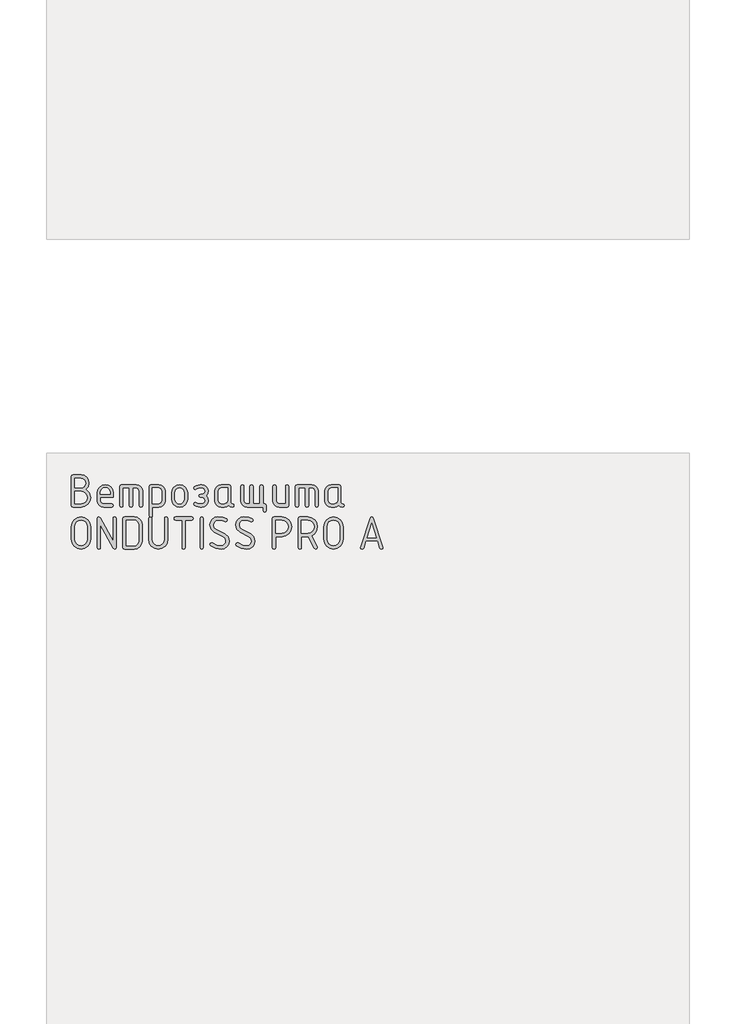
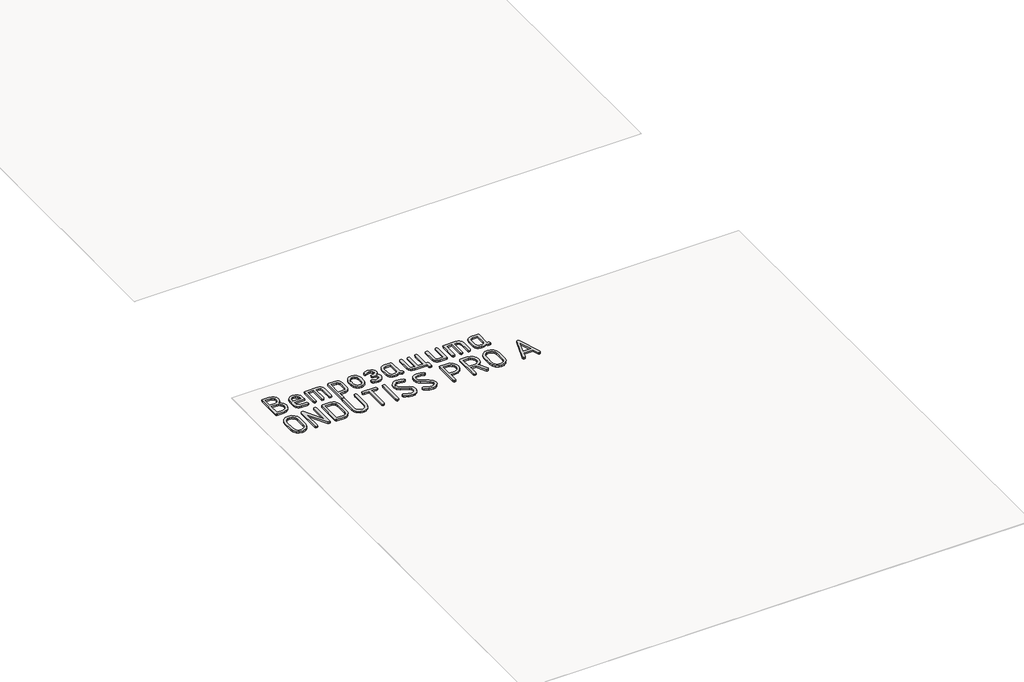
# One storey, part 8 of 42: 1 proxy.
"""IFC4 building model written with IfcOpenShell, lengths in millimetres."""

from ifc_helpers import new_model, si_unit, origin, origin_with_axes, place, context, project, spatial, polyline, outline, extrude, element, save

model = new_model("IFC4")

# Units and contexts
model_context = context("Model", 3, world=origin())
ifc_project = project(units=[si_unit("LENGTHUNIT", "METRE", prefix="MILLI")], contexts=[model_context])

# Site, building, storey
site = spatial("IfcSite", under=ifc_project)
building = spatial("IfcBuilding", under=site)
storey = spatial("IfcBuildingStorey", under=building, Name="Этаж 01", Elevation=0.0)

# Proxy
placement = place(None, origin())
element("IfcBuildingElementProxy", 1, Name="150 мм GOST Common", ObjectType="150 мм GOST Common", at=placement, inside=storey, context=model_context, shape_type="SweptSolid", body=[
    extrude(outline(polyline([(-23252.8873918, -38744.1512234), (-23236.4972471, -38759.9620699), (-23231.0338655, -38782.145197), (-23234.3098969, -38799.2594645), (-23244.137991, -38813.6869868), (-23258.6004709, -38823.5000991), (-23275.7796598, -38826.7711365), (-23313.0545046, -38826.7711365), (-23318.6577168, -38824.8834233), (-23320.5254542, -38819.2202837), (-23320.5254542, -38683.4647398), (-23318.6677047, -38677.8016002), (-23313.0944562, -38675.913887), (-23275.8995146, -38675.913887), (-23261.4620044, -38678.6905234), (-23249.4715299, -38687.0204324), (-23241.3963123, -38699.3854533), (-23238.7045731, -38714.267425), (-23242.2502778, -38730.9272431), (-23252.8873918, -38744.1512234)]), holes=[polyline([(-23305.184039, -38691.2553022), (-23305.184039, -38737.2795478), (-23275.9794178, -38737.2795478), (-23267.5446358, -38735.5965866), (-23260.4582204, -38730.5477029), (-23255.6490463, -38723.1117109), (-23254.0459883, -38714.267425), (-23255.6490463, -38705.4231391), (-23260.4582204, -38697.9871472), (-23267.5446358, -38692.9382635), (-23275.9794178, -38691.2553022), (-23305.184039, -38691.2553022)]), polyline([(-23305.184039, -38752.620963), (-23305.184039, -38811.4297213), (-23275.7796598, -38811.4297213), (-23264.3884593, -38809.2973045), (-23254.9049477, -38802.9000542), (-23248.5076975, -38793.4165427), (-23246.3752807, -38782.0253421), (-23248.5076975, -38770.6341416), (-23254.9049477, -38761.1506301), (-23264.3884593, -38754.7533798), (-23275.7796598, -38752.620963), (-23305.184039, -38752.620963)])]), origin_with_axes(), (0.0, 0.0, 1.0), 10.0),
    extrude(outline(polyline([(-23185.0096199, -38780.7468909), (-23185.0096199, -38796.0883061), (-23180.5749921, -38806.8952144), (-23170.0277691, -38811.4297213), (-23132.5132148, -38811.4297213), (-23126.8800389, -38813.3473982), (-23125.0023136, -38819.1004289), (-23126.8800389, -38824.8534596), (-23132.5132148, -38826.7711365), (-23170.0277691, -38826.7711365), (-23181.683649, -38824.6037621), (-23191.4817794, -38818.1016388), (-23198.1337212, -38808.443339), (-23200.3510351, -38796.8074349), (-23200.3510351, -38759.3727838), (-23197.5694048, -38744.9802191), (-23189.2245139, -38732.8848716), (-23176.9843418, -38724.6748174), (-23162.5168679, -38721.9381326), (-23147.9395271, -38724.5949142), (-23135.8491736, -38732.5652588), (-23127.7140286, -38744.4109088), (-23125.0023136, -38758.6936065), (-23125.0023136, -38780.7468909), (-23185.0096199, -38780.7468909)]), holes=[polyline([(-23162.5168679, -38735.4018225), (-23171.146414, -38737.0498261), (-23178.4176056, -38741.9938369), (-23183.3616163, -38749.2650284), (-23185.0096199, -38757.8945745), (-23185.0096199, -38765.4054757), (-23140.024116, -38765.4054757), (-23140.024116, -38757.8945745), (-23141.6721196, -38749.2650284), (-23146.6161303, -38741.9938369), (-23153.8873219, -38737.0498261), (-23162.5168679, -38735.4018225)])]), origin_with_axes(), (0.0, 0.0, 1.0), 10.0),
    extrude(outline(polyline([(-23087.8473237, -38721.9381326), (-23018.8109553, -38721.9381326), (-23006.9852811, -38724.1204889), (-22997.0772837, -38730.6675577), (-22990.3654146, -38740.3408393), (-22988.1281249, -38751.9018342), (-22988.1281249, -38819.3001869), (-22990.0458018, -38824.9033991), (-22995.7988325, -38826.7711365), (-23001.5518632, -38824.9033991), (-23003.4695401, -38819.3001869), (-23003.4695401, -38752.1814954), (-23007.8841921, -38741.574345), (-23018.8109553, -38737.2795478), (-23034.1523705, -38737.2795478), (-23034.1523705, -38819.3001869), (-23036.0700474, -38824.9033991), (-23041.8230781, -38826.7711365), (-23047.5761088, -38824.9033991), (-23049.4937857, -38819.3001869), (-23049.4937857, -38737.2795478), (-23080.1766161, -38737.2795478), (-23080.1766161, -38819.3001869), (-23082.094293, -38824.9033991), (-23087.8473237, -38826.7711365), (-23093.6003544, -38824.9033991), (-23095.5180313, -38819.3001869), (-23095.5180313, -38729.4090822), (-23093.6003544, -38723.80587), (-23087.8473237, -38721.9381326)])), origin_with_axes(), (0.0, 0.0, 1.0), 10.0),
    extrude(outline(polyline([(-22957.4452945, -38729.4889854), (-22955.587545, -38723.8258458), (-22950.0142965, -38721.9381326), (-22912.9392098, -38721.9381326), (-22901.4431363, -38724.105507), (-22891.8847155, -38730.6076303), (-22885.4425196, -38740.2659301), (-22883.295121, -38751.9018342), (-22883.295121, -38796.8074349), (-22885.4275378, -38808.3684298), (-22891.8247881, -38818.0417114), (-22901.3082996, -38824.5887802), (-22912.6995002, -38826.7711365), (-22942.1038793, -38826.7711365), (-22942.1038793, -38865.1246745), (-22944.0215562, -38870.8777052), (-22949.7745869, -38872.7953821), (-22955.5276176, -38870.9076689), (-22957.4452945, -38865.2445293), (-22957.4452945, -38729.4889854)]), holes=[polyline([(-22942.1038793, -38737.2795478), (-22942.1038793, -38811.4297213), (-22913.1389678, -38811.4297213), (-22902.871406, -38807.0949725), (-22898.6365362, -38796.6076769), (-22898.6365362, -38752.1015922), (-22902.8114786, -38741.5543692), (-22913.1389678, -38737.2795478), (-22942.1038793, -38737.2795478)])]), origin_with_axes(), (0.0, 0.0, 1.0), 10.0),
    extrude(outline(polyline([(-22852.6122906, -38789.3364853), (-22852.6122906, -38759.3727838), (-22849.9005756, -38744.9802191), (-22841.7654307, -38732.8848716), (-22829.784944, -38724.6748174), (-22815.5372039, -38721.9381326), (-22801.1396453, -38724.6448537), (-22789.1891223, -38732.7650168), (-22781.1438685, -38744.8304006), (-22778.4621172, -38759.3727838), (-22778.4621172, -38789.3364853), (-22781.1738322, -38803.72905), (-22789.3089771, -38815.8243975), (-22801.2894638, -38824.0344517), (-22815.5372039, -38826.7711365), (-22829.784944, -38824.0344517), (-22841.7654307, -38815.8243975), (-22849.9005756, -38803.72905), (-22852.6122906, -38789.3364853)]), holes=[polyline([(-22793.8035324, -38788.8970177), (-22793.8035324, -38758.8933645), (-22795.3966025, -38750.2638185), (-22800.1758129, -38742.9926269), (-22807.2023009, -38738.0486162), (-22815.5372039, -38736.4006126), (-22823.8721069, -38738.0486162), (-22830.8985949, -38742.9926269), (-22835.6778053, -38750.2638185), (-22837.2708754, -38758.8933645), (-22837.2708754, -38788.8970177), (-22835.6927871, -38797.606467), (-22830.9585223, -38804.8776585), (-22823.9470161, -38809.7917056), (-22815.5372039, -38811.4297213), (-22807.2023009, -38809.7817177), (-22800.1758129, -38804.8377069), (-22795.3966025, -38797.5565275), (-22793.8035324, -38788.8970177)])]), origin_with_axes(), (0.0, 0.0, 1.0), 10.0),
    extrude(outline(polyline([(-22696.6412361, -38796.0483545), (-22700.6363963, -38784.7020995), (-22709.505652, -38780.7468909), (-22719.1739397, -38780.7468909), (-22724.4875028, -38778.5495528), (-22726.6448893, -38773.1161349), (-22724.4275754, -38767.6627412), (-22717.0165532, -38765.4054757), (-22714.7393119, -38765.4054757), (-22712.3422157, -38765.4054757), (-22700.6763479, -38761.3503881), (-22696.6412361, -38751.3425118), (-22700.9759849, -38741.3346354), (-22711.6630385, -38737.2795478), (-22719.1739397, -38737.2795478), (-22734.5553065, -38741.0949258), (-22743.4645138, -38744.9103038), (-22747.459674, -38742.1736191), (-22749.1775929, -38736.9199834), (-22746.1013195, -38731.1769406), (-22736.8724994, -38726.013196), (-22719.1739397, -38721.9381326), (-22711.6630385, -38721.9381326), (-22699.9771949, -38724.0555675), (-22690.1690766, -38730.4078723), (-22683.5171348, -38739.8264625), (-22681.2998209, -38751.1427537), (-22683.9466146, -38764.4366493), (-22691.8869955, -38773.0761833), (-22683.9466146, -38782.2650518), (-22681.2998209, -38796.0883061), (-22683.5171348, -38807.9888895), (-22690.1690766, -38817.881905), (-22699.9771949, -38824.5488286), (-22711.6630385, -38826.7711365), (-22719.1739397, -38826.7711365), (-22736.9923542, -38822.8159279), (-22746.1312832, -38817.7420744), (-22749.1775929, -38811.7892857), (-22747.459674, -38806.5156742), (-22743.3446589, -38803.7989653), (-22734.2157179, -38807.6143433), (-22719.1739397, -38811.4297213), (-22711.6630385, -38811.4297213), (-22701.0159365, -38806.935166), (-22696.6412361, -38796.0483545)])), origin_with_axes(), (0.0, 0.0, 1.0), 10.0),
    extrude(outline(polyline([(-22561.4849663, -38819.3001869), (-22563.3527037, -38824.9033991), (-22568.9559159, -38826.7711365), (-22578.4344335, -38824.7835443), (-22586.01525, -38818.8207677), (-22595.1342031, -38824.7835443), (-22606.1109058, -38826.7711365), (-22620.9729018, -38826.7711365), (-22632.4689753, -38824.6037621), (-22642.0273961, -38818.1016388), (-22648.4695919, -38808.443339), (-22650.6169905, -38796.8074349), (-22650.6169905, -38751.9018342), (-22648.4695919, -38740.2659301), (-22642.0273961, -38730.6076303), (-22632.4689753, -38724.105507), (-22620.9729018, -38721.9381326), (-22583.8978151, -38721.9381326), (-22578.3245666, -38723.80587), (-22576.4668171, -38729.4090822), (-22576.4668171, -38804.3183361), (-22574.5940857, -38809.9215483), (-22568.9758917, -38811.7892857), (-22563.3576976, -38813.667011), (-22561.4849663, -38819.3001869)]), holes=[polyline([(-22591.8082323, -38737.2795478), (-22620.7731438, -38737.2795478), (-22631.0407055, -38741.6142966), (-22635.2755753, -38752.1015922), (-22635.2755753, -38796.6076769), (-22631.0007539, -38807.0550209), (-22620.7731438, -38811.4297213), (-22606.3106638, -38811.4297213), (-22596.0431021, -38807.0949725), (-22591.8082323, -38796.6076769), (-22591.8082323, -38737.2795478)])]), origin_with_axes(), (0.0, 0.0, 1.0), 10.0),
    extrude(outline(polyline([(-22425.6095676, -38826.7711365), (-22500.4788699, -38826.7711365), (-22512.114774, -38824.5887802), (-22521.7730738, -38818.0417114), (-22528.2751971, -38808.3684298), (-22530.4425715, -38796.8074349), (-22530.4425715, -38729.4090822), (-22528.5248946, -38723.80587), (-22522.7718639, -38721.9381326), (-22517.0188332, -38723.80587), (-22515.1011563, -38729.4090822), (-22515.1011563, -38796.5277737), (-22510.9461897, -38807.0150692), (-22501.0381924, -38811.4297213), (-22486.9752284, -38811.4297213), (-22486.9752284, -38729.4090822), (-22485.0575515, -38723.80587), (-22479.3045208, -38721.9381326), (-22473.5514901, -38723.80587), (-22471.6338132, -38729.4090822), (-22471.6338132, -38811.4297213), (-22440.9509828, -38811.4297213), (-22440.9509828, -38729.4090822), (-22439.0333059, -38723.80587), (-22433.2802752, -38721.9381326), (-22427.5272445, -38723.80587), (-22425.6095676, -38729.4090822), (-22425.6095676, -38811.4297213), (-22417.93886, -38811.4297213), (-22412.1858293, -38813.3473982), (-22410.2681524, -38819.1004289), (-22410.2681524, -38842.1125517), (-22412.1858293, -38847.8655824), (-22417.93886, -38849.7832593), (-22423.6918907, -38847.8655824), (-22425.6095676, -38842.1125517), (-22425.6095676, -38826.7711365)])), origin_with_axes(), (0.0, 0.0, 1.0), 10.0),
    extrude(outline(polyline([(-22305.4351486, -38729.4090822), (-22305.4351486, -38819.3001869), (-22307.2928981, -38824.9033991), (-22312.8661466, -38826.7711365), (-22349.9412333, -38826.7711365), (-22361.4373068, -38824.6037621), (-22370.9957276, -38818.1016388), (-22377.4379234, -38808.443339), (-22379.585322, -38796.8074349), (-22379.585322, -38729.4090822), (-22377.6676451, -38723.80587), (-22371.9146144, -38721.9381326), (-22366.1615837, -38723.80587), (-22364.2439068, -38729.4090822), (-22364.2439068, -38796.5277737), (-22359.9690854, -38807.0150692), (-22349.7414753, -38811.4297213), (-22320.7765638, -38811.4297213), (-22320.7765638, -38729.4090822), (-22318.8588869, -38723.80587), (-22313.1058562, -38721.9381326), (-22307.3528255, -38723.80587), (-22305.4351486, -38729.4090822)])), origin_with_axes(), (0.0, 0.0, 1.0), 10.0),
    extrude(outline(polyline([(-22267.0816106, -38721.9381326), (-22198.0452422, -38721.9381326), (-22186.219568, -38724.1204889), (-22176.3115707, -38730.6675577), (-22169.5997015, -38740.3408393), (-22167.3624118, -38751.9018342), (-22167.3624118, -38819.3001869), (-22169.2800887, -38824.9033991), (-22175.0331194, -38826.7711365), (-22180.7861501, -38824.9033991), (-22182.703827, -38819.3001869), (-22182.703827, -38752.1814954), (-22187.118479, -38741.574345), (-22198.0452422, -38737.2795478), (-22213.3866574, -38737.2795478), (-22213.3866574, -38819.3001869), (-22215.3043343, -38824.9033991), (-22221.057365, -38826.7711365), (-22226.8103957, -38824.9033991), (-22228.7280726, -38819.3001869), (-22228.7280726, -38737.2795478), (-22259.410903, -38737.2795478), (-22259.410903, -38819.3001869), (-22261.3285799, -38824.9033991), (-22267.0816106, -38826.7711365), (-22272.8346413, -38824.9033991), (-22274.7523182, -38819.3001869), (-22274.7523182, -38729.4090822), (-22272.8346413, -38723.80587), (-22267.0816106, -38721.9381326)])), origin_with_axes(), (0.0, 0.0, 1.0), 10.0),
    extrude(outline(polyline([(-22047.5475572, -38819.3001869), (-22049.4152946, -38824.9033991), (-22055.0185068, -38826.7711365), (-22064.4970244, -38824.7835443), (-22072.0778409, -38818.8207677), (-22081.196794, -38824.7835443), (-22092.1734967, -38826.7711365), (-22107.0354927, -38826.7711365), (-22118.5315662, -38824.6037621), (-22128.089987, -38818.1016388), (-22134.5321828, -38808.443339), (-22136.6795814, -38796.8074349), (-22136.6795814, -38751.9018342), (-22134.5321828, -38740.2659301), (-22128.089987, -38730.6076303), (-22118.5315662, -38724.105507), (-22107.0354927, -38721.9381326), (-22069.9604059, -38721.9381326), (-22064.3871575, -38723.80587), (-22062.529408, -38729.4090822), (-22062.529408, -38804.3183361), (-22060.6566766, -38809.9215483), (-22055.0384826, -38811.7892857), (-22049.4202885, -38813.667011), (-22047.5475572, -38819.3001869)]), holes=[polyline([(-22077.8708232, -38737.2795478), (-22106.8357347, -38737.2795478), (-22117.1032964, -38741.6142966), (-22121.3381662, -38752.1015922), (-22121.3381662, -38796.6076769), (-22117.0633448, -38807.0550209), (-22106.8357347, -38811.4297213), (-22092.3732547, -38811.4297213), (-22082.105693, -38807.0949725), (-22077.8708232, -38796.6076769), (-22077.8708232, -38737.2795478)])]), origin_with_axes(), (0.0, 0.0, 1.0), 10.0),
    extrude(outline(polyline([(-23231.0338655, -38977.5302169), (-23234.3098969, -38994.8991759), (-23244.137991, -39009.5314502), (-23258.6004709, -39019.4793991), (-23275.7796598, -39022.7953821), (-23292.9588487, -39019.4793991), (-23307.4213287, -39009.5314502), (-23317.2494228, -38994.8991759), (-23320.5254542, -38977.5302169), (-23320.5254542, -38917.2032978), (-23317.2494228, -38899.8343388), (-23307.4213287, -38885.2020645), (-23292.9588487, -38875.2541156), (-23275.7796598, -38871.9381326), (-23258.5255617, -38875.2391337), (-23244.0780636, -38885.1421371), (-23234.294915, -38899.7594295), (-23231.0338655, -38917.2032978), (-23231.0338655, -38977.5302169)]), holes=[polyline([(-23246.3752807, -38977.4103621), (-23246.3752807, -38917.3231526), (-23248.5076975, -38905.6772606), (-23254.9049477, -38895.9889971), (-23264.3884593, -38889.4569101), (-23275.7796598, -38887.2795478), (-23287.1708604, -38889.4569101), (-23296.6543719, -38895.9889971), (-23303.0516222, -38905.6772606), (-23305.184039, -38917.3231526), (-23305.184039, -38977.4103621), (-23303.0516222, -38989.0562541), (-23296.6543719, -38998.7445176), (-23287.1708604, -39005.2766046), (-23275.7796598, -39007.4539669), (-23264.3884593, -39005.2766046), (-23254.9049477, -38998.7445176), (-23248.5076975, -38989.0562541), (-23246.3752807, -38977.4103621)])]), origin_with_axes(), (0.0, 0.0, 1.0), 10.0),
    extrude(outline(polyline([(-23126.2008617, -38986.1198114), (-23126.2008617, -38879.4889854), (-23124.2831848, -38873.8258458), (-23118.5301541, -38871.9381326), (-23112.7771234, -38873.8258458), (-23110.8594465, -38879.4889854), (-23110.8594465, -39015.2445293), (-23112.8969782, -39020.9076689), (-23119.0095733, -39022.7953821), (-23126.2008617, -39019.0399315), (-23185.0096199, -38908.4938485), (-23185.0096199, -39015.2445293), (-23186.9272968, -39020.9076689), (-23192.6803275, -39022.7953821), (-23198.4333582, -39020.9076689), (-23200.3510351, -39015.2445293), (-23200.3510351, -38879.4889854), (-23198.353455, -38873.8258458), (-23192.3607147, -38871.9381326), (-23185.0096199, -38876.4127121), (-23126.2008617, -38986.1198114)])), origin_with_axes(), (0.0, 0.0, 1.0), 10.0),
    extrude(outline(polyline([(-23080.1766161, -38879.4889854), (-23078.3088787, -38873.8258458), (-23072.7056665, -38871.9381326), (-23027.9598721, -38871.9381326), (-23013.4874043, -38874.6648295), (-23001.47196, -38882.84492), (-22993.3817605, -38895.0001949), (-22990.6850274, -38909.652445), (-22990.6850274, -38985.0810697), (-22993.4117242, -38999.5835013), (-23001.5918148, -39011.7687399), (-23013.6372228, -39020.0387215), (-23027.9598721, -39022.7953821), (-23072.7056665, -39022.7953821), (-23078.3088787, -39020.9076689), (-23080.1766161, -39015.2445293), (-23080.1766161, -38879.4889854)]), holes=[polyline([(-23064.8352009, -38887.2795478), (-23064.8352009, -39007.4539669), (-23028.079727, -39007.4539669), (-23019.6049934, -39005.8059633), (-23012.4786263, -39000.8619525), (-23007.6394885, -38993.580773), (-23006.0264426, -38984.9212633), (-23006.0264426, -38909.8122514), (-23007.6394885, -38901.1527416), (-23012.4786263, -38893.8715622), (-23019.6049934, -38888.9275514), (-23028.079727, -38887.2795478), (-23064.8352009, -38887.2795478)])]), origin_with_axes(), (0.0, 0.0, 1.0), 10.0),
    extrude(outline(polyline([(-22870.5106084, -38879.4889854), (-22870.5106084, -38977.5302169), (-22873.7866397, -38994.8991759), (-22883.6147338, -39009.5314502), (-22898.0772138, -39019.4793991), (-22915.2564027, -39022.7953821), (-22932.4355916, -39019.4793991), (-22946.8980715, -39009.5314502), (-22956.7261656, -38994.8991759), (-22960.002197, -38977.5302169), (-22960.002197, -38879.4889854), (-22958.0845201, -38873.8258458), (-22952.3314894, -38871.9381326), (-22946.5784587, -38873.8158579), (-22944.6607818, -38879.4490338), (-22944.6607818, -38977.3304589), (-22942.5283651, -38989.0113086), (-22936.1311148, -38998.7245418), (-22926.6476032, -39005.2716106), (-22915.2564027, -39007.4539669), (-22903.8652021, -39005.2716106), (-22894.3816906, -38998.7245418), (-22887.9844403, -38989.0113086), (-22885.8520236, -38977.3304589), (-22885.8520236, -38879.4490338), (-22883.9343467, -38873.8158579), (-22878.181316, -38871.9381326), (-22872.4282853, -38873.8258458), (-22870.5106084, -38879.4889854)])), origin_with_axes(), (0.0, 0.0, 1.0), 10.0),
    extrude(outline(polyline([(-22841.5456969, -38879.6088402), (-22839.6679716, -38873.8558095), (-22834.0347957, -38871.9381326), (-22758.6860741, -38871.9381326), (-22753.082862, -38873.8558095), (-22751.2151246, -38879.6088402), (-22753.082862, -38885.3618709), (-22758.6860741, -38887.2795478), (-22788.6897273, -38887.2795478), (-22788.6897273, -39015.2844809), (-22790.6074042, -39020.9176568), (-22796.3604349, -39022.7953821), (-22802.1134656, -39020.9176568), (-22804.0311425, -39015.2844809), (-22804.0311425, -38887.2795478), (-22834.0347957, -38887.2795478), (-22839.6679716, -38885.3618709), (-22841.5456969, -38879.6088402)])), origin_with_axes(), (0.0, 0.0, 1.0), 10.0),
    extrude(outline(polyline([(-22711.9826513, -39022.7953821), (-22717.735682, -39020.9076689), (-22719.6533589, -39015.2445293), (-22719.6533589, -38879.4889854), (-22717.735682, -38873.8258458), (-22711.9826513, -38871.9381326), (-22706.2296206, -38873.8258458), (-22704.3119437, -38879.4889854), (-22704.3119437, -39015.2445293), (-22706.2296206, -39020.9076689), (-22711.9826513, -39022.7953821)])), origin_with_axes(), (0.0, 0.0, 1.0), 10.0),
    extrude(outline(polyline([(-22584.1375247, -38985.1609729), (-22586.8792034, -38999.5535376), (-22595.1042394, -39011.7287883), (-22607.1646293, -39020.0287336), (-22621.4123694, -39022.7953821), (-22647.4308503, -39018.6104518), (-22670.353082, -39006.0556608), (-22673.6291133, -38999.9430657), (-22671.4317752, -38994.6494784), (-22666.1981153, -38992.4321645), (-22661.9632455, -38993.790519), (-22641.5080253, -39004.2578387), (-22621.7319822, -39007.4539669), (-22613.1823394, -39005.8009693), (-22605.991051, -39000.8419767), (-22601.1069677, -38993.5458154), (-22599.4789399, -38984.8813117), (-22602.5652011, -38972.9158069), (-22611.8239849, -38964.665801), (-22653.5334575, -38943.0120327), (-22668.6051994, -38929.3985243), (-22673.6291133, -38909.5725418), (-22670.9024165, -38895.1799771), (-22662.722326, -38883.0047264), (-22650.7268574, -38874.7047811), (-22636.5540266, -38871.9381326), (-22613.3721095, -38874.0256038), (-22596.4026665, -38880.2880175), (-22591.9680387, -38887.2795478), (-22594.1853526, -38892.5731351), (-22599.4789399, -38894.790449), (-22602.5951648, -38893.991417), (-22619.4747167, -38888.9575151), (-22636.2344138, -38887.2795478), (-22644.7091474, -38888.9325454), (-22651.8355144, -38893.891538), (-22656.6746522, -38901.1876993), (-22658.2876981, -38909.852203), (-22655.2513764, -38921.7877441), (-22646.1424111, -38929.9478588), (-22604.4728901, -38951.6016272), (-22589.221366, -38965.3050267), (-22584.1375247, -38985.1609729)])), origin_with_axes(), (0.0, 0.0, 1.0), 10.0),
    extrude(outline(polyline([(-22463.9631056, -38985.1609729), (-22466.7047843, -38999.5535376), (-22474.9298204, -39011.7287883), (-22486.9902103, -39020.0287336), (-22501.2379504, -39022.7953821), (-22527.2564312, -39018.6104518), (-22550.1786629, -39006.0556608), (-22553.4546943, -38999.9430657), (-22551.2573562, -38994.6494784), (-22546.0236963, -38992.4321645), (-22541.7888265, -38993.790519), (-22521.3336062, -39004.2578387), (-22501.5575632, -39007.4539669), (-22493.0079203, -39005.8009693), (-22485.816632, -39000.8419767), (-22480.9325486, -38993.5458154), (-22479.3045208, -38984.8813117), (-22482.3907821, -38972.9158069), (-22491.6495659, -38964.665801), (-22533.3590384, -38943.0120327), (-22548.4307803, -38929.3985243), (-22553.4546943, -38909.5725418), (-22550.7279974, -38895.1799771), (-22542.5479069, -38883.0047264), (-22530.5524384, -38874.7047811), (-22516.3796075, -38871.9381326), (-22493.1976904, -38874.0256038), (-22476.2282475, -38880.2880175), (-22471.7936196, -38887.2795478), (-22474.0109335, -38892.5731351), (-22479.3045208, -38894.790449), (-22482.4207458, -38893.991417), (-22499.3002977, -38888.9575151), (-22516.0599947, -38887.2795478), (-22524.5347283, -38888.9325454), (-22531.6610953, -38893.891538), (-22536.5002331, -38901.1876993), (-22538.1132791, -38909.852203), (-22535.0769573, -38921.7877441), (-22525.967992, -38929.9478588), (-22484.2984711, -38951.6016272), (-22469.046947, -38965.3050267), (-22463.9631056, -38985.1609729)])), origin_with_axes(), (0.0, 0.0, 1.0), 10.0),
    extrude(outline(polyline([(-22374.671275, -38871.9381326), (-22337.3964302, -38871.9381326), (-22320.1423321, -38875.2940672), (-22305.694834, -38885.3618709), (-22295.9116854, -38900.2238669), (-22292.6506359, -38917.9623782), (-22295.7418911, -38936.4999216), (-22305.0156568, -38951.2021111), (-22319.2334332, -38960.7904956), (-22337.1567206, -38963.9866238), (-22366.8008094, -38963.9866238), (-22366.8008094, -39015.4442873), (-22368.7184863, -39020.9576084), (-22374.471517, -39022.7953821), (-22380.2245477, -39020.9076689), (-22382.1422246, -39015.2445293), (-22382.1422246, -38879.4889854), (-22380.2744872, -38873.8258458), (-22374.671275, -38871.9381326)]), holes=[polyline([(-22366.8008094, -38887.2795478), (-22366.8008094, -38948.6452086), (-22337.3964302, -38948.6452086), (-22326.0052297, -38946.4229007), (-22316.5217182, -38939.7559772), (-22310.1244679, -38929.8629617), (-22307.9920511, -38917.9623782), (-22310.1244679, -38906.0617947), (-22316.5217182, -38896.1687793), (-22326.0052297, -38889.5018557), (-22337.3964302, -38887.2795478), (-22366.8008094, -38887.2795478)])]), origin_with_axes(), (0.0, 0.0, 1.0), 10.0),
    extrude(outline(polyline([(-22198.6445162, -38959.2723348), (-22172.4762169, -39011.8086915), (-22172.4762169, -39015.2445293), (-22174.9132646, -39020.5181407), (-22180.5064889, -39022.7953821), (-22187.8176321, -39018.6803671), (-22214.9048183, -38963.866769), (-22217.541624, -38963.9866238), (-22246.6263903, -38963.9866238), (-22246.6263903, -39015.4442873), (-22248.5440672, -39020.9576084), (-22254.2970979, -39022.7953821), (-22260.0501286, -39020.9076689), (-22261.9678055, -39015.2445293), (-22261.9678055, -38879.4889854), (-22260.1000681, -38873.8258458), (-22254.4968559, -38871.9381326), (-22217.2220112, -38871.9381326), (-22199.9679131, -38875.2391337), (-22185.520415, -38885.1421371), (-22175.7372664, -38899.7594295), (-22172.4762169, -38917.2032978), (-22174.1117356, -38931.533438), (-22179.0182917, -38943.3216576), (-22187.1958853, -38952.5679565), (-22198.6445162, -38959.2723348)]), holes=[polyline([(-22246.6263903, -38887.2795478), (-22246.6263903, -38948.6452086), (-22217.2220112, -38948.6452086), (-22205.8308107, -38946.4229007), (-22196.3472991, -38939.7559772), (-22189.9500488, -38929.8629617), (-22187.8176321, -38917.9623782), (-22189.9500488, -38906.0617947), (-22196.3472991, -38896.1687793), (-22205.8308107, -38889.5018557), (-22217.2220112, -38887.2795478), (-22246.6263903, -38887.2795478)])]), origin_with_axes(), (0.0, 0.0, 1.0), 10.0),
    extrude(outline(polyline([(-22052.3017978, -38977.5302169), (-22055.5778292, -38994.8991759), (-22065.4059233, -39009.5314502), (-22079.8684033, -39019.4793991), (-22097.0475922, -39022.7953821), (-22114.226781, -39019.4793991), (-22128.689261, -39009.5314502), (-22138.5173551, -38994.8991759), (-22141.7933865, -38977.5302169), (-22141.7933865, -38917.2032978), (-22138.5173551, -38899.8343388), (-22128.689261, -38885.2020645), (-22114.226781, -38875.2541156), (-22097.0475922, -38871.9381326), (-22079.793494, -38875.2391337), (-22065.3459959, -38885.1421371), (-22055.5628473, -38899.7594295), (-22052.3017978, -38917.2032978), (-22052.3017978, -38977.5302169)]), holes=[polyline([(-22067.643213, -38977.4103621), (-22067.643213, -38917.3231526), (-22069.7756298, -38905.6772606), (-22076.1728801, -38895.9889971), (-22085.6563916, -38889.4569101), (-22097.0475922, -38887.2795478), (-22108.4387927, -38889.4569101), (-22117.9223042, -38895.9889971), (-22124.3195545, -38905.6772606), (-22126.4519713, -38917.3231526), (-22126.4519713, -38977.4103621), (-22124.3195545, -38989.0562541), (-22117.9223042, -38998.7445176), (-22108.4387927, -39005.2766046), (-22097.0475922, -39007.4539669), (-22085.6563916, -39005.2766046), (-22076.1728801, -38998.7445176), (-22069.7756298, -38989.0562541), (-22067.643213, -38977.4103621)])]), origin_with_axes(), (0.0, 0.0, 1.0), 10.0),
    extrude(outline(polyline([(-21865.8077193, -39015.2445293), (-21867.6854446, -39020.9076689), (-21873.3186205, -39022.7953821), (-21877.8431395, -39021.4869671), (-21880.4699573, -39017.5617222), (-21891.2568899, -38984.4418441), (-21945.3513591, -38984.4418441), (-21956.1782432, -39017.5617222), (-21958.8050611, -39021.4869671), (-21963.32958, -39022.7953821), (-21968.9627559, -39020.9076689), (-21970.8404812, -39015.2445293), (-21970.4809168, -39012.8474332), (-21925.8150256, -38878.0107761), (-21922.9185345, -38873.4562935), (-21918.3041245, -38871.9381326), (-21913.7496418, -38873.3963661), (-21910.9530297, -38877.7710665), (-21866.1672837, -39012.8474332), (-21865.8077193, -39015.2445293)]), holes=[polyline([(-21918.3041245, -38902.9405758), (-21940.3574088, -38969.1004289), (-21896.2907917, -38969.1004289), (-21918.3041245, -38902.9405758)])]), origin_with_axes(), (0.0, 0.0, 1.0), 10.0),
])

save(model, "model.ifc")
